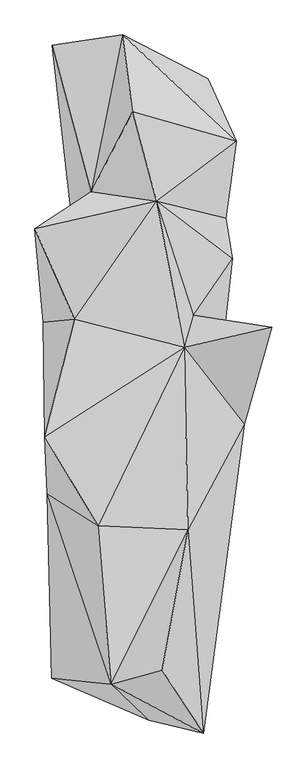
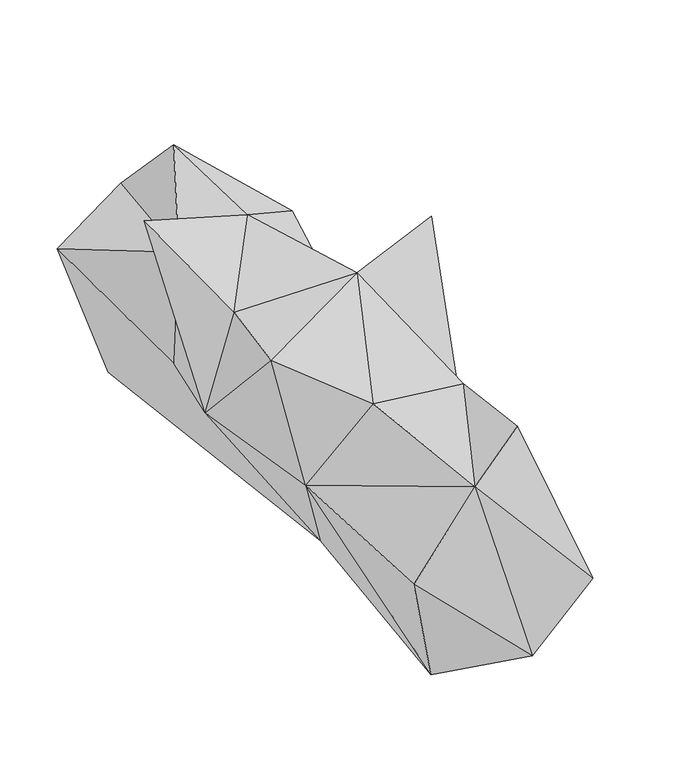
"""IFC4 building model written with IfcOpenShell, lengths in millimetres: geographic element geometry, Enscape AssetDefinition - Potted Plant 250 Snake Plant : Enscape AssetDefinition - Potted Plant 250 Snake Plant 5."""

from ifc_helpers import new_model, si_unit, origin, place, context, project, spatial, triangles, source, transform, mapped, element, save


def geographic_element_5cff998a(model_context):
    return source(origin(), model_context, "Body", "Tessellation", [
        triangles([(-15.5021515, 561.05478, 453.4861279), (-35.2241922, 715.5840832, 283.2701913), (136.0771046, 627.2841677, 58.3429822), (28.458803, 549.5499953, 0.0), (-98.4050309, 400.5948432, 346.5461801), (172.334539, 347.4396212, 238.0774557), (193.534099, 502.5446886, 272.3817208), (141.8125467, 372.73081, 83.2131075), (73.7706833, -71.9953693, 0.0), (33.1204529, 381.4650879, 393.5183856), (107.1624724, 153.6623139, 287.8201498), (185.3284225, 266.2400535, 235.5286287), (153.2395926, -22.97816, 147.2708527), (264.5400664, 129.1727295, 462.4214109), (209.2604283, -65.1067227, 212.7903909), (96.3434925, -276.9565142, 402.869777), (126.7686975, -684.805584, 217.2948216), (140.9397802, -511.2930282, 0.0), (17.4735269, -659.306777, 72.1409681), (44.3042725, -558.8997517, 500.0000038), (-84.74024, -269.1620045, 418.881554), (-177.6414644, -574.822944, 244.626093), (-58.4571468, -586.5461746, 422.2237192), (-79.8411658, -72.9401063, 0.0), (-3.3810394, -499.470603, 0.0), (-135.7528148, -563.4249115, 26.7207164), (-186.2864127, -204.9760241, 238.4811374), (88.6432812, 89.1520619, 424.9032432), (-191.2227211, -90.6833274, 442.5372322), (-131.7877407, 144.8097384, 383.2222481), (-194.600422, 139.6922637, 190.1017503), (-137.4743667, 349.5888722, 149.8982541), (-211.4411091, 326.6131671, 498.8484389), (-145.2639076, 569.2314975, 0.0), (-176.8547391, 695.2440456, 202.9293649)], [[4, 9, 24], [34, 4, 24], [4, 34, 35], [35, 34, 32], [24, 32, 34], [5, 35, 32], [5, 33, 10], [28, 10, 30], [33, 30, 10], [31, 33, 5], [24, 31, 32], [31, 5, 32], [30, 33, 31], [29, 30, 31], [28, 30, 29], [28, 29, 21], [27, 21, 29], [27, 29, 31], [27, 31, 24], [27, 26, 22], [27, 24, 26], [24, 25, 26], [24, 9, 25], [22, 26, 19], [26, 25, 19], [21, 27, 23], [22, 19, 23], [27, 22, 23], [16, 23, 20], [28, 21, 16], [16, 21, 23], [17, 16, 20], [17, 23, 19], [20, 23, 17], [18, 25, 9], [19, 25, 18], [17, 19, 18], [18, 15, 17], [15, 28, 16], [15, 16, 17], [28, 15, 14], [9, 15, 18], [15, 9, 13], [15, 13, 11], [14, 15, 11], [10, 28, 11], [11, 28, 14], [12, 11, 13], [12, 13, 9], [12, 10, 11], [6, 10, 12], [4, 8, 9], [6, 12, 8], [8, 12, 9], [8, 4, 3], [7, 10, 6], [7, 6, 8], [8, 3, 7], [1, 10, 7], [5, 10, 1], [2, 7, 3], [4, 35, 2], [5, 2, 35], [5, 1, 2], [2, 3, 4], [2, 1, 7]]),
    ])


if __name__ == "__main__":
    model = new_model("IFC4")
    model_context = context("Model", 3, world=origin())
    ifc_project = project(units=[si_unit("LENGTHUNIT", "METRE", prefix="MILLI")], contexts=[model_context])
    site = spatial("IfcSite", under=ifc_project)
    building = spatial("IfcBuilding", under=site)
    placement = place(None, origin())
    geographic_element_shape = geographic_element_5cff998a(model_context)
    element("IfcGeographicElement", 1, ObjectType="Enscape AssetDefinition - Potted Plant 250 Snake Plant : Enscape AssetDefinition - Potted Plant 250 Snake Plant 5", at=placement, inside=building, context=model_context, shape_type="MappedRepresentation", body=[
        mapped(geographic_element_shape, transform((0.0, 0.0, 0.0), x_axis=(1.0, 0.0, 0.0), y_axis=(0.0, 1.0, 0.0), z_axis=(0.0, 0.0, 1.0))),
    ])
    save(model, "model.ifc")
